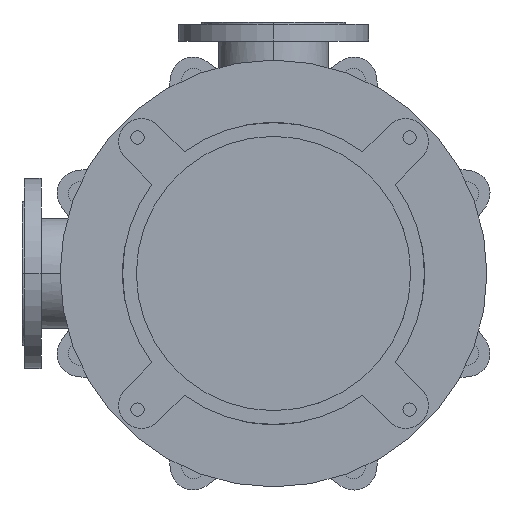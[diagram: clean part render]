
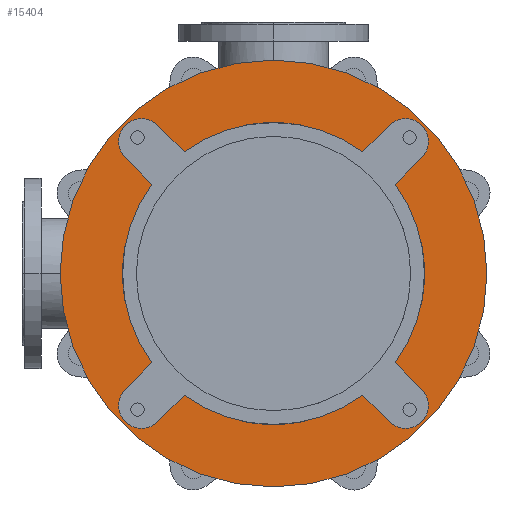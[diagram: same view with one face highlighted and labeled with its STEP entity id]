
A CAD part, front view. The second image highlights one B-rep face of the part: STEP entity #15404.
In plain terms, the highlighted planar face has unit normal (0, -1, 0).
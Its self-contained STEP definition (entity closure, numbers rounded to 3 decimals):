
#4297=CARTESIAN_POINT('',(0.,-25.,0.));
#4298=DIRECTION('',(0.,1.,0.));
#4299=DIRECTION('',(0.592,0.,-0.806));
#4300=AXIS2_PLACEMENT_3D('',#4297,#4298,#4299);
#4315=CARTESIAN_POINT('',(0.,-25.,0.));
#4316=DIRECTION('',(0.,1.,0.));
#4317=DIRECTION('',(0.806,0.,0.592));
#4318=AXIS2_PLACEMENT_3D('',#4315,#4316,#4317);
#4342=CARTESIAN_POINT('',(0.,-25.,0.));
#4343=DIRECTION('',(0.,1.,0.));
#4344=DIRECTION('',(-0.806,0.,-0.592));
#4345=AXIS2_PLACEMENT_3D('',#4342,#4343,#4344);
#4351=CARTESIAN_POINT('',(0.,-25.,0.));
#4352=DIRECTION('',(0.,1.,0.));
#4353=DIRECTION('',(-0.592,0.,0.806));
#4354=AXIS2_PLACEMENT_3D('',#4351,#4352,#4353);
#4529=CARTESIAN_POINT('',(0.,-25.,0.));
#4530=DIRECTION('',(0.,-1.,0.));
#4531=DIRECTION('',(-1.,0.,0.));
#4532=AXIS2_PLACEMENT_3D('',#4529,#4530,#4531);
#4534=CARTESIAN_POINT('',(0.,-25.,0.));
#4535=DIRECTION('',(0.,1.,0.));
#4536=DIRECTION('',(-1.,0.,0.));
#4537=AXIS2_PLACEMENT_3D('',#4534,#4535,#4536);
#4539=CARTESIAN_POINT('',(-173.241,-25.,173.241));
#4540=DIRECTION('',(0.,-1.,0.));
#4541=DIRECTION('',(0.707,0.,0.707));
#4542=AXIS2_PLACEMENT_3D('',#4539,#4540,#4541);
#4544=DIRECTION('',(0.707,0.,-0.707));
#4545=VECTOR('',#4544,49.286);
#4546=CARTESIAN_POINT('',(-194.454,-25.,152.028));
#4547=LINE('',#4546,#4545);
#4548=DIRECTION('',(-0.707,0.,-0.707));
#4549=VECTOR('',#4548,49.286);
#4550=CARTESIAN_POINT('',(-159.604,-25.,-117.178));
#4551=LINE('',#4550,#4549);
#4552=CARTESIAN_POINT('',(-173.241,-25.,-173.241));
#4553=DIRECTION('',(0.,-1.,0.));
#4554=DIRECTION('',(-0.707,0.,0.707));
#4555=AXIS2_PLACEMENT_3D('',#4552,#4553,#4554);
#4557=DIRECTION('',(0.707,0.,0.707));
#4558=VECTOR('',#4557,49.286);
#4559=CARTESIAN_POINT('',(-152.028,-25.,-194.454));
#4560=LINE('',#4559,#4558);
#4561=DIRECTION('',(0.707,0.,-0.707));
#4562=VECTOR('',#4561,49.286);
#4563=CARTESIAN_POINT('',(117.178,-25.,-159.604));
#4564=LINE('',#4563,#4562);
#4565=CARTESIAN_POINT('',(173.241,-25.,-173.241));
#4566=DIRECTION('',(0.,-1.,0.));
#4567=DIRECTION('',(-0.707,0.,-0.707));
#4568=AXIS2_PLACEMENT_3D('',#4565,#4566,#4567);
#4570=DIRECTION('',(-0.707,0.,0.707));
#4571=VECTOR('',#4570,49.286);
#4572=CARTESIAN_POINT('',(194.454,-25.,-152.028));
#4573=LINE('',#4572,#4571);
#4574=DIRECTION('',(0.707,0.,0.707));
#4575=VECTOR('',#4574,49.286);
#4576=CARTESIAN_POINT('',(159.604,-25.,117.178));
#4577=LINE('',#4576,#4575);
#4578=CARTESIAN_POINT('',(173.241,-25.,173.241));
#4579=DIRECTION('',(0.,-1.,0.));
#4580=DIRECTION('',(0.707,0.,-0.707));
#4581=AXIS2_PLACEMENT_3D('',#4578,#4579,#4580);
#4583=DIRECTION('',(-0.707,0.,-0.707));
#4584=VECTOR('',#4583,49.286);
#4585=CARTESIAN_POINT('',(152.028,-25.,194.454));
#4586=LINE('',#4585,#4584);
#4587=DIRECTION('',(-0.707,0.,0.707));
#4588=VECTOR('',#4587,49.286);
#4589=CARTESIAN_POINT('',(-117.178,-25.,159.604));
#4590=LINE('',#4589,#4588);
#8328=CARTESIAN_POINT('',(-280.,-25.,0.));
#8329=CARTESIAN_POINT('',(280.,-25.,0.));
#8330=VERTEX_POINT('',#8328);
#8331=VERTEX_POINT('',#8329);
#8352=CARTESIAN_POINT('',(-194.454,-25.,-152.028));
#8353=CARTESIAN_POINT('',(-152.028,-25.,-194.454));
#8354=VERTEX_POINT('',#8352);
#8355=VERTEX_POINT('',#8353);
#8356=CARTESIAN_POINT('',(-117.178,-25.,-159.604));
#8357=VERTEX_POINT('',#8356);
#8358=CARTESIAN_POINT('',(-159.604,-25.,-117.178));
#8359=VERTEX_POINT('',#8358);
#8368=CARTESIAN_POINT('',(152.028,-25.,-194.454));
#8369=CARTESIAN_POINT('',(194.454,-25.,-152.028));
#8370=VERTEX_POINT('',#8368);
#8371=VERTEX_POINT('',#8369);
#8372=CARTESIAN_POINT('',(159.604,-25.,-117.178));
#8373=VERTEX_POINT('',#8372);
#8374=CARTESIAN_POINT('',(117.178,-25.,-159.604));
#8375=VERTEX_POINT('',#8374);
#8384=CARTESIAN_POINT('',(194.454,-25.,152.028));
#8385=CARTESIAN_POINT('',(152.028,-25.,194.454));
#8386=VERTEX_POINT('',#8384);
#8387=VERTEX_POINT('',#8385);
#8388=CARTESIAN_POINT('',(117.178,-25.,159.604));
#8389=VERTEX_POINT('',#8388);
#8390=CARTESIAN_POINT('',(159.604,-25.,117.178));
#8391=VERTEX_POINT('',#8390);
#8400=CARTESIAN_POINT('',(-152.028,-25.,194.454));
#8401=CARTESIAN_POINT('',(-194.454,-25.,152.028));
#8402=VERTEX_POINT('',#8400);
#8403=VERTEX_POINT('',#8401);
#8404=CARTESIAN_POINT('',(-159.604,-25.,117.178));
#8405=VERTEX_POINT('',#8404);
#8406=CARTESIAN_POINT('',(-117.178,-25.,159.604));
#8407=VERTEX_POINT('',#8406);
#15364=CARTESIAN_POINT('',(0.,-25.,0.));
#15365=DIRECTION('',(0.,-1.,0.));
#15366=DIRECTION('',(-1.,0.,0.));
#15367=AXIS2_PLACEMENT_3D('',#15364,#15365,#15366);
#15368=PLANE('',#15367);
#15370=ORIENTED_EDGE('',*,*,#15369,.F.);
#15372=ORIENTED_EDGE('',*,*,#15371,.T.);
#15373=EDGE_LOOP('',(#15370,#15372));
#15374=FACE_OUTER_BOUND('',#15373,.F.);
#15376=ORIENTED_EDGE('',*,*,#15375,.T.);
#15378=ORIENTED_EDGE('',*,*,#15377,.T.);
#15379=ORIENTED_EDGE('',*,*,#15317,.F.);
#15381=ORIENTED_EDGE('',*,*,#15380,.T.);
#15383=ORIENTED_EDGE('',*,*,#15382,.T.);
#15385=ORIENTED_EDGE('',*,*,#15384,.T.);
#15386=ORIENTED_EDGE('',*,*,#15270,.F.);
#15387=ORIENTED_EDGE('',*,*,#15354,.T.);
#15389=ORIENTED_EDGE('',*,*,#15388,.T.);
#15391=ORIENTED_EDGE('',*,*,#15390,.T.);
#15392=ORIENTED_EDGE('',*,*,#15291,.F.);
#15394=ORIENTED_EDGE('',*,*,#15393,.T.);
#15396=ORIENTED_EDGE('',*,*,#15395,.T.);
#15398=ORIENTED_EDGE('',*,*,#15397,.T.);
#15399=ORIENTED_EDGE('',*,*,#15335,.F.);
#15401=ORIENTED_EDGE('',*,*,#15400,.T.);
#15402=EDGE_LOOP('',(#15376,#15378,#15379,#15381,#15383,#15385,#15386,#15387,
#15389,#15391,#15392,#15394,#15396,#15398,#15399,#15401));
#15403=FACE_BOUND('',#15402,.F.);
#15404=ADVANCED_FACE('',(#15374,#15403),#15368,.T.);
#4301=CIRCLE('',#4300,198.);
#4319=CIRCLE('',#4318,198.);
#4346=CIRCLE('',#4345,198.);
#4355=CIRCLE('',#4354,198.);
#4533=CIRCLE('',#4532,280.);
#4538=CIRCLE('',#4537,280.);
#4543=CIRCLE('',#4542,30.);
#4556=CIRCLE('',#4555,30.);
#4569=CIRCLE('',#4568,30.);
#4582=CIRCLE('',#4581,30.);
#15270=EDGE_CURVE('',#8375,#8357,#4301,.T.);
#15291=EDGE_CURVE('',#8391,#8373,#4319,.T.);
#15317=EDGE_CURVE('',#8359,#8405,#4346,.T.);
#15335=EDGE_CURVE('',#8407,#8389,#4355,.T.);
#15354=EDGE_CURVE('',#8375,#8370,#4564,.T.);
#15369=EDGE_CURVE('',#8330,#8331,#4533,.T.);
#15371=EDGE_CURVE('',#8330,#8331,#4538,.T.);
#15375=EDGE_CURVE('',#8402,#8403,#4543,.T.);
#15377=EDGE_CURVE('',#8403,#8405,#4547,.T.);
#15380=EDGE_CURVE('',#8359,#8354,#4551,.T.);
#15382=EDGE_CURVE('',#8354,#8355,#4556,.T.);
#15384=EDGE_CURVE('',#8355,#8357,#4560,.T.);
#15388=EDGE_CURVE('',#8370,#8371,#4569,.T.);
#15390=EDGE_CURVE('',#8371,#8373,#4573,.T.);
#15393=EDGE_CURVE('',#8391,#8386,#4577,.T.);
#15395=EDGE_CURVE('',#8386,#8387,#4582,.T.);
#15397=EDGE_CURVE('',#8387,#8389,#4586,.T.);
#15400=EDGE_CURVE('',#8407,#8402,#4590,.T.);
